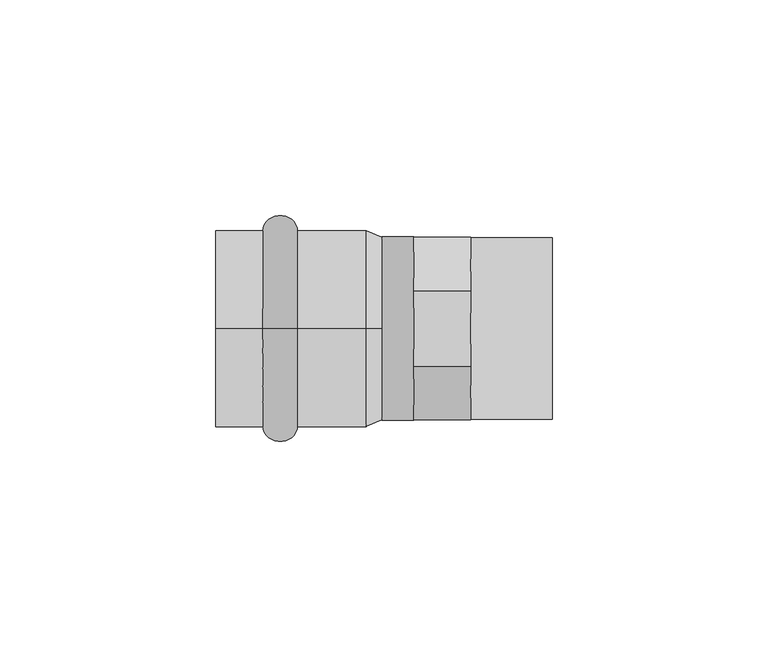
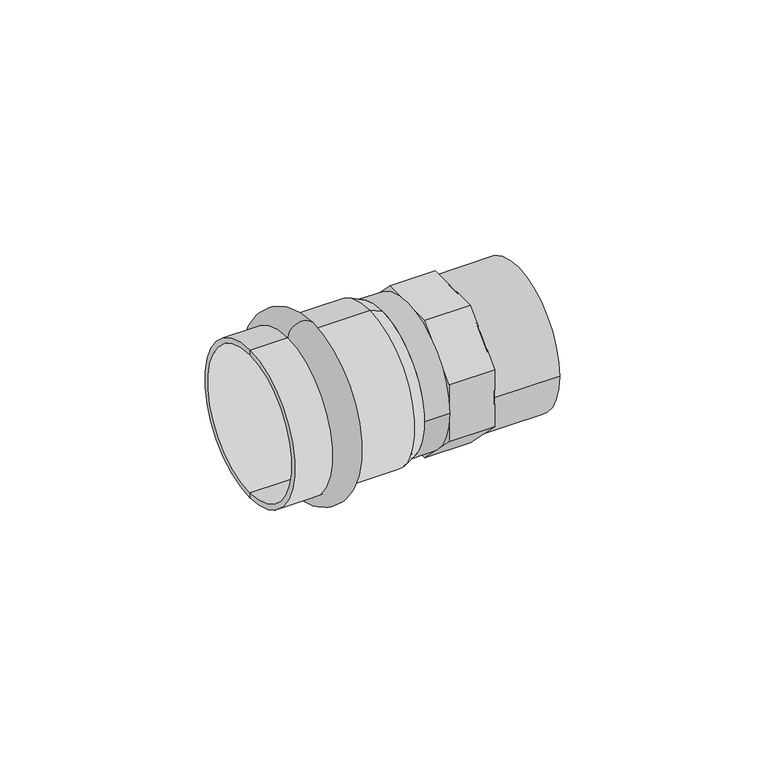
"""IFC4 building model written with IfcOpenShell, lengths in millimetres: pipe fitting geometry."""

from ifc_helpers import new_model, si_unit, point, frame, origin, origin_2d, place, context, project, spatial, polyline, circle_curve, ellipse_curve, trimmed, segment, composite_curve, outline, extrude, source, transform, mapped, element, save
from ifc_brep_helpers import plane_surface, cylinder_surface, revolved_surface, advanced_brep


def pipe_fitting_a3a97a90(model_context):
    return source(origin(), model_context, "Body", "SolidModel", [
        advanced_brep(
        [(-24.0, 0.0, 22.75), (-24.0, 0.0, -22.75), (-16.0, 0.0, -22.75), (-16.0, 0.0, 22.75)],
        [
            (0, 1, circle_curve(frame((-24.0, 0.0, 0.0), z_axis=(-1.0, 0.0, 0.0), x_axis=(0.0, 0.0, -1.0)), 22.75)),
            (1, 2),
            (2, 3, circle_curve(frame((-16.0, 0.0, 0.0), z_axis=(1.0, 0.0, 0.0), x_axis=(0.0, 0.0, -1.0)), 22.75)),
            (3, 0),
            (1, 0, circle_curve(frame((-24.0, 0.0, 0.0), z_axis=(-1.0, 0.0, 0.0), x_axis=(0.0, 0.0, -1.0)), 22.75)),
            (3, 2, circle_curve(frame((-16.0, 0.0, 0.0), z_axis=(1.0, 0.0, 0.0), x_axis=(0.0, 0.0, -1.0)), 22.75)),
            (2, 1, ellipse_curve(frame((-20.0, 0.0, -22.75), z_axis=(0.0, 1.0, 0.0), x_axis=(-1.0, 0.0, 0.0)), 4.0, 3.6)),
            (0, 3, ellipse_curve(frame((-20.0, 0.0, 22.75), z_axis=(0.0, 1.0, 0.0), x_axis=(-1.0, 0.0, 0.0)), 4.0, 3.6)),
        ],
        [
            revolved_surface(polyline([(-16.0, 0.0, -22.75), (-24.0, 0.0, -22.75)]), (4.0, 0.0, 0.0), (1.0, 0.0, 0.0)),
            revolved_surface(trimmed(ellipse_curve(frame((-20.0, 0.0, -22.75), z_axis=(0.0, -1.0, 0.0), x_axis=(-1.0, 0.0, 0.0)), 4.0, 3.6), [point((-24.0, 0.0, -22.75))], [point((-16.0, 0.0, -22.75))], True, "CARTESIAN"), (4.0, 0.0, 0.0), (1.0, 0.0, 0.0)),
        ],
        [
            (0, [[1, 2, 3, 4]]),
            (0, [[5, -4, 6, -2]]),
            (1, [[-3, 7, -1, 8]]),
            (1, [[-6, -8, -5, -7]]),
        ],
    ),
        advanced_brep(
        [(3.5337785, 0.0, 21.25), (3.5337785, 0.0, -21.25), (0.0, 0.0, -22.75), (0.0, 0.0, 22.75), (-35.0, 0.0, 21.25), (-35.0, 0.0, -21.25), (-35.0, 0.0, 22.75), (-35.0, 0.0, -22.75)],
        [
            (0, 1, circle_curve(frame((3.5337785, 0.0, 0.0), z_axis=(-1.0, 0.0, 0.0), x_axis=(0.0, 0.0, -1.0)), 21.25)),
            (1, 2),
            (2, 3, circle_curve(frame((0.0, 0.0, 0.0), z_axis=(1.0, 0.0, 0.0), x_axis=(0.0, 0.0, -1.0)), 22.75)),
            (3, 0),
            (1, 0, circle_curve(frame((3.5337785, 0.0, 0.0), z_axis=(-1.0, 0.0, 0.0), x_axis=(0.0, 0.0, -1.0)), 21.25)),
            (3, 2, circle_curve(frame((0.0, 0.0, 0.0), z_axis=(1.0, 0.0, 0.0), x_axis=(0.0, 0.0, -1.0)), 22.75)),
            (4, 5, circle_curve(frame((-35.0, 0.0, 0.0), z_axis=(-1.0, 0.0, 0.0), x_axis=(0.0, 0.0, -1.0)), 21.25)),
            (5, 1),
            (0, 4),
            (5, 4, circle_curve(frame((-35.0, 0.0, 0.0), z_axis=(-1.0, 0.0, 0.0), x_axis=(0.0, 0.0, -1.0)), 21.25)),
            (6, 7, circle_curve(frame((-35.0, 0.0, 0.0), z_axis=(-1.0, 0.0, 0.0), x_axis=(0.0, 0.0, -1.0)), 22.75)),
            (7, 5),
            (4, 6),
            (7, 6, circle_curve(frame((-35.0, 0.0, 0.0), z_axis=(-1.0, 0.0, 0.0), x_axis=(0.0, 0.0, -1.0)), 22.75)),
            (2, 7),
            (6, 3),
        ],
        [
            revolved_surface(polyline([(0.0, 0.0, -22.75), (3.5337785, 0.0, -21.25)]), (4.0, 0.0, 0.0), (1.0, 0.0, 0.0)),
            revolved_surface(polyline([(3.5337785, 0.0, -21.25), (-35.0, 0.0, -21.25)]), (4.0, 0.0, 0.0), (1.0, 0.0, 0.0)),
            plane_surface(frame((-35.0, 0.0, 0.0), z_axis=(-1.0, 0.0, 0.0), x_axis=(0.0, 0.0, -1.0))),
            cylinder_surface(frame((4.0, 0.0, 0.0), z_axis=(1.0, 0.0, 0.0), x_axis=(0.0, 0.0, -1.0)), 22.75),
        ],
        [
            (0, [[1, 2, 3, 4]]),
            (0, [[5, -4, 6, -2]]),
            (1, [[7, 8, -1, 9]]),
            (1, [[10, -9, -5, -8]]),
            (2, [[11, 12, -7, 13]]),
            (2, [[14, -13, -10, -12]]),
            (3, [[-3, 15, -11, 16]]),
            (3, [[-6, -16, -14, -15]]),
        ],
    ),
        extrude(outline(composite_curve([segment(trimmed(circle_curve(origin_2d(), 21.0), [point((-21.0, 0.0))], [point((21.0, 0.0))], False, "CARTESIAN"), True, "CONTINUOUS"), segment(trimmed(circle_curve(origin_2d(), 21.0), [point((21.0, 0.0))], [point((-21.0, 0.0))], False, "CARTESIAN"), True, "CONTINUOUS")], self_intersect=False)), frame((24.1337785, 0.0, 0.0), z_axis=(1.0, 0.0, 0.0), x_axis=(0.0, 1.0, 0.0)), (0.0, 0.0, 1.0), 19.0),
        extrude(outline(composite_curve([segment(trimmed(circle_curve(origin_2d(), 21.25), [point((-21.25, 0.0))], [point((21.25, 0.0))], False, "CARTESIAN"), True, "CONTINUOUS"), segment(trimmed(circle_curve(origin_2d(), 21.25), [point((21.25, 0.0))], [point((-21.25, 0.0))], False, "CARTESIAN"), True, "CONTINUOUS")], self_intersect=False)), frame((3.5337785, 0.0, 0.0), z_axis=(1.0, 0.0, 0.0), x_axis=(0.0, 1.0, 0.0)), (0.0, 0.0, 1.0), 7.4),
        extrude(outline(polyline([(-21.15, 8.7606168), (-8.7606168, 21.15), (8.7606168, 21.15), (21.15, 8.7606168), (21.15, -8.7606168), (8.7606168, -21.15), (-8.7606168, -21.15), (-21.15, -8.7606168), (-21.15, 8.7606168)]), holes=[polyline([(6.7309704, -16.25), (16.25, -6.7309704), (16.25, 6.7309704), (6.7309704, 16.25), (-6.7309704, 16.25), (-16.25, 6.7309704), (-16.25, -6.7309704), (-6.7309704, -16.25), (6.7309704, -16.25)])]), frame((10.9337785, 0.0, 0.0), z_axis=(1.0, 0.0, 0.0), x_axis=(0.0, 1.0, 0.0)), (0.0, 0.0, 1.0), 13.2),
    ])


if __name__ == "__main__":
    model = new_model("IFC4")
    model_context = context("Model", 3, world=origin())
    ifc_project = project(units=[si_unit("LENGTHUNIT", "METRE", prefix="MILLI")], contexts=[model_context])
    site = spatial("IfcSite", under=ifc_project)
    building = spatial("IfcBuilding", under=site)
    placement = place(None, origin())
    pipe_fitting_shape = pipe_fitting_a3a97a90(model_context)
    element("IfcPipeFitting", 1, ObjectType="РЕХАУ_Пресс Муфта НР : 42 x R 1 1/4\"", at=placement, inside=building, context=model_context, shape_type="MappedRepresentation", body=[
        mapped(pipe_fitting_shape, transform((0.0, 0.0, 0.0), x_axis=(1.0, 0.0, 0.0), y_axis=(0.0, 1.0, 0.0), z_axis=(0.0, 0.0, 1.0))),
    ])
    save(model, "model.ifc")
